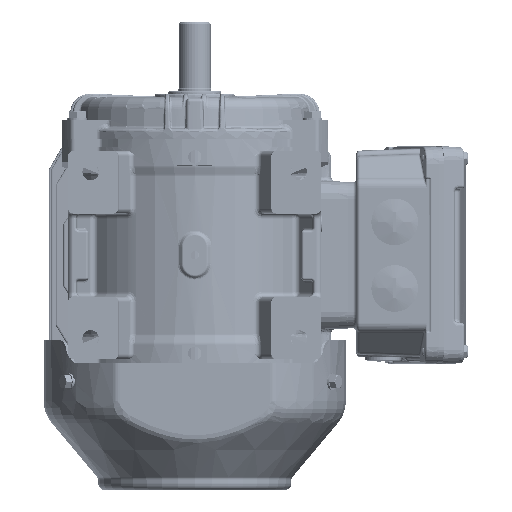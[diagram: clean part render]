
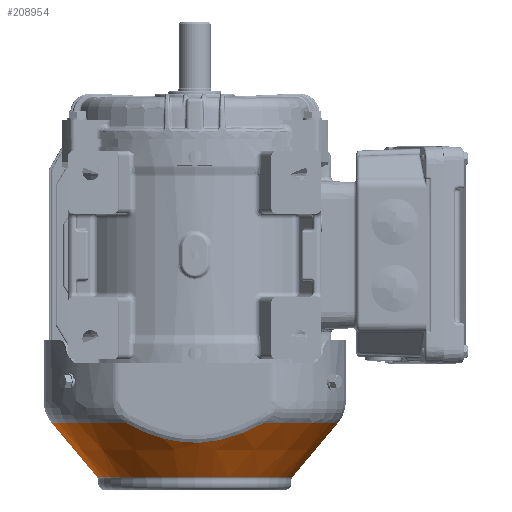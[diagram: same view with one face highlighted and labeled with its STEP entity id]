
A CAD part, front view. The second image highlights one B-rep face of the part: STEP entity #208954.
In plain terms, the highlighted conical face has half-angle 40 degrees and reference radius 58.702 mm.
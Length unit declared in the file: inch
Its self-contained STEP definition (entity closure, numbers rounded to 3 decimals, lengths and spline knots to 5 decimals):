
#7672 = DIRECTION ( 'NONE',  ( 0., 0., 1. ) ) ;
#7723 = CARTESIAN_POINT ( 'NONE',  ( -0.98554, -2.97603, -4.26043 ) ) ;
#13819 = ORIENTED_EDGE ( 'NONE', *, *, #88082, .F. ) ;
#14199 = CIRCLE ( 'NONE', #166803, 3.38665 ) ;
#21297 = LINE ( 'NONE', #103269, #54204 ) ;
#22582 = CIRCLE ( 'NONE', #131491, 3.38665 ) ;
#25529 = CARTESIAN_POINT ( 'NONE',  ( -1.51799, -2.96354, -4.02986 ) ) ;
#27390 = EDGE_CURVE ( 'NONE', #138040, #175045, #22582, .T. ) ;
#28140 = EDGE_CURVE ( 'NONE', #132455, #175045, #75123, .T. ) ;
#39071 = LINE ( 'NONE', #56869, #245265 ) ;
#44919 = ORIENTED_EDGE ( 'NONE', *, *, #56223, .T. ) ;
#46048 = CARTESIAN_POINT ( 'NONE',  ( -1.18895, -2.97162, -4.18208 ) ) ;
#48687 = CARTESIAN_POINT ( 'NONE',  ( 0.15097, -2.9865, -4.43307 ) ) ;
#54071 = CARTESIAN_POINT ( 'NONE',  ( -2.3111, 0., -5.24149 ) ) ;
#54204 = VECTOR ( 'NONE', #85494, 39.37008 ) ;
#56223 = EDGE_CURVE ( 'NONE', #116052, #236263, #218868, .T. ) ;
#56338 = DIRECTION ( 'NONE',  ( 1., 0., 0. ) ) ;
#56869 = CARTESIAN_POINT ( 'NONE',  ( -2.3111, 0., -5.24149 ) ) ;
#56984 = CARTESIAN_POINT ( 'NONE',  ( 0., 0., -5.24149 ) ) ;
#63826 = CARTESIAN_POINT ( 'NONE',  ( 1.39016, -2.96685, -4.0938 ) ) ;
#67559 = CONICAL_SURFACE ( 'NONE', #220084, 2.3111, 0.698 ) ;
#69190 = CARTESIAN_POINT ( 'NONE',  ( 0.36703, -2.98514, -4.41166 ) ) ;
#75123 = B_SPLINE_CURVE_WITH_KNOTS ( 'NONE', 3,
 ( #192058, #88357, #63826, #127939, #148426, #235707, #256226, #107478, #69190, #151157, #189397, #48687, #147072, #152452, #231679, #131963, #234376, #194743, #213882, #168906, #7723, #190720, #46048, #129283, #25529, #86975 ),
 .UNSPECIFIED., .F., .F.,
 ( 4, 2, 2, 2, 2, 2, 2, 2, 2, 2, 2, 2, 4 ),
 ( 0., 0.01088, 0.02175, 0.03263, 0.03535, 0.03807, 0.04351, 0.05438, 0.05982, 0.06526, 0.0707, 0.07614, 0.08701 ),
 .UNSPECIFIED. ) ;
#78824 = DIRECTION ( 'NONE',  ( 0., 0., 1. ) ) ;
#80463 = CARTESIAN_POINT ( 'NONE',  ( 1.64533, -2.96012, -3.9597 ) ) ;
#85494 = DIRECTION ( 'NONE',  ( 0.643, 0., 0.766 ) ) ;
#86701 = ORIENTED_EDGE ( 'NONE', *, *, #28140, .T. ) ;
#86975 = CARTESIAN_POINT ( 'NONE',  ( -1.64533, -2.96012, -3.9597 ) ) ;
#88082 = EDGE_CURVE ( 'NONE', #132455, #115305, #14199, .T. ) ;
#88357 = CARTESIAN_POINT ( 'NONE',  ( 1.51872, -2.96352, -4.02946 ) ) ;
#101196 = AXIS2_PLACEMENT_3D ( 'NONE', #56984, #78824, #226206 ) ;
#103044 = ORIENTED_EDGE ( 'NONE', *, *, #27390, .F. ) ;
#103269 = CARTESIAN_POINT ( 'NONE',  ( 2.3111, 0., -5.24149 ) ) ;
#106934 = FACE_OUTER_BOUND ( 'NONE', #149644, .T. ) ;
#107478 = CARTESIAN_POINT ( 'NONE',  ( 0.40315, -2.98482, -4.40653 ) ) ;
#109608 = CARTESIAN_POINT ( 'NONE',  ( 0., 0., -5.24149 ) ) ;
#115305 = VERTEX_POINT ( 'NONE', #155806 ) ;
#116052 = VERTEX_POINT ( 'NONE', #54071 ) ;
#117649 = CARTESIAN_POINT ( 'NONE',  ( -3.38665, 0., -3.9597 ) ) ;
#121034 = DIRECTION ( 'NONE',  ( -0.643, 0., 0.766 ) ) ;
#121501 = ORIENTED_EDGE ( 'NONE', *, *, #138470, .T. ) ;
#127939 = CARTESIAN_POINT ( 'NONE',  ( 1.12818, -2.97307, -4.20884 ) ) ;
#129283 = CARTESIAN_POINT ( 'NONE',  ( -1.38824, -2.9669, -4.0948 ) ) ;
#131491 = AXIS2_PLACEMENT_3D ( 'NONE', #235657, #7672, #56338 ) ;
#131963 = CARTESIAN_POINT ( 'NONE',  ( -0.49482, -2.98392, -4.39209 ) ) ;
#132450 = DIRECTION ( 'NONE',  ( 0., 0., 1. ) ) ;
#132455 = VERTEX_POINT ( 'NONE', #80463 ) ;
#133836 = CARTESIAN_POINT ( 'NONE',  ( 2.3111, 0., -5.24149 ) ) ;
#138040 = VERTEX_POINT ( 'NONE', #117649 ) ;
#138470 = EDGE_CURVE ( 'NONE', #236263, #115305, #21297, .T. ) ;
#147072 = CARTESIAN_POINT ( 'NONE',  ( 0.07904, -2.98669, -4.43613 ) ) ;
#148426 = CARTESIAN_POINT ( 'NONE',  ( 0.99475, -2.97596, -4.25955 ) ) ;
#149644 = EDGE_LOOP ( 'NONE', ( #253485, #44919, #121501, #13819, #86701, #103044 ) ) ;
#150286 = DIRECTION ( 'NONE',  ( 1., 0., 0. ) ) ;
#151157 = CARTESIAN_POINT ( 'NONE',  ( 0.29497, -2.9857, -4.42047 ) ) ;
#152452 = CARTESIAN_POINT ( 'NONE',  ( -0.13654, -2.98673, -4.43671 ) ) ;
#155806 = CARTESIAN_POINT ( 'NONE',  ( 3.38665, 0., -3.9597 ) ) ;
#166803 = AXIS2_PLACEMENT_3D ( 'NONE', #193906, #132450, #150286 ) ;
#168906 = CARTESIAN_POINT ( 'NONE',  ( -0.9167, -2.9774, -4.28391 ) ) ;
#169703 = DIRECTION ( 'NONE',  ( 0., 0., 1. ) ) ;
#175045 = VERTEX_POINT ( 'NONE', #187934 ) ;
#187934 = CARTESIAN_POINT ( 'NONE',  ( -1.64533, -2.96012, -3.9597 ) ) ;
#189397 = CARTESIAN_POINT ( 'NONE',  ( 0.25896, -2.98593, -4.42416 ) ) ;
#190720 = CARTESIAN_POINT ( 'NONE',  ( -1.12174, -2.97315, -4.20948 ) ) ;
#191503 = DIRECTION ( 'NONE',  ( 1., 0., 0. ) ) ;
#192058 = CARTESIAN_POINT ( 'NONE',  ( 1.64533, -2.96012, -3.9597 ) ) ;
#193906 = CARTESIAN_POINT ( 'NONE',  ( 0., 0., -3.9597 ) ) ;
#194743 = CARTESIAN_POINT ( 'NONE',  ( -0.70788, -2.98104, -4.34523 ) ) ;
#208954 = ADVANCED_FACE ( 'NONE', ( #106934 ), #67559, .T. ) ;
#213882 = CARTESIAN_POINT ( 'NONE',  ( -0.77791, -2.9799, -4.3263 ) ) ;
#218868 = CIRCLE ( 'NONE', #101196, 2.3111 ) ;
#220084 = AXIS2_PLACEMENT_3D ( 'NONE', #109608, #169703, #191503 ) ;
#226206 = DIRECTION ( 'NONE',  ( 1., 0., 0. ) ) ;
#231679 = CARTESIAN_POINT ( 'NONE',  ( -0.28001, -2.98601, -4.42556 ) ) ;
#234376 = CARTESIAN_POINT ( 'NONE',  ( -0.56645, -2.98305, -4.37811 ) ) ;
#235657 = CARTESIAN_POINT ( 'NONE',  ( 0., 0., -3.9597 ) ) ;
#235707 = CARTESIAN_POINT ( 'NONE',  ( 0.7218, -2.98094, -4.34392 ) ) ;
#236263 = VERTEX_POINT ( 'NONE', #133836 ) ;
#243551 = EDGE_CURVE ( 'NONE', #116052, #138040, #39071, .T. ) ;
#245265 = VECTOR ( 'NONE', #121034, 39.37008 ) ;
#253485 = ORIENTED_EDGE ( 'NONE', *, *, #243551, .F. ) ;
#256226 = CARTESIAN_POINT ( 'NONE',  ( 0.58227, -2.98301, -4.3776 ) ) ;
